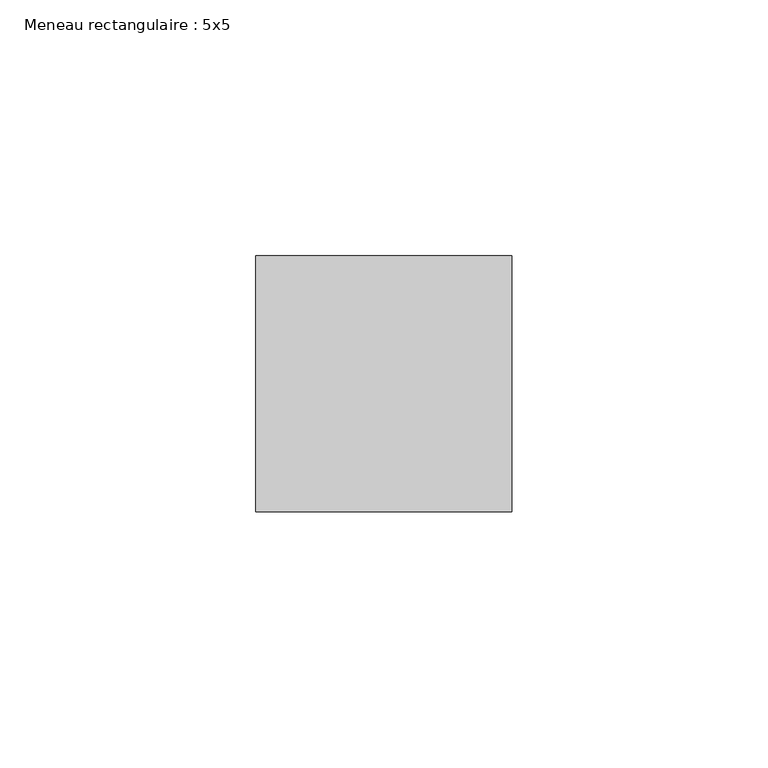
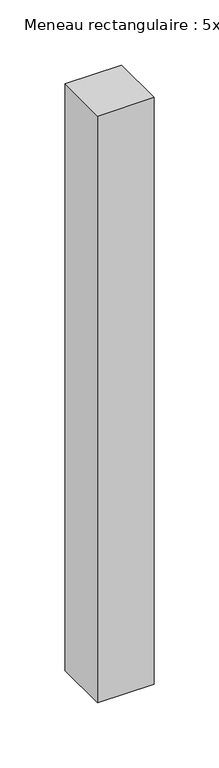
"""IFC4 building model written with IfcOpenShell, lengths in millimetres: member geometry, Meneau rectangulaire : 5x5."""

from ifc_helpers import new_model, si_unit, frame, origin, place, context, project, spatial, polyline, outline, extrude, source, transform, mapped, element, save


def meneau_rectangulaire_5x5_0e7bc2e6(model_context):
    return source(origin(), model_context, "Body", "SweptSolid", [
        extrude(outline(polyline([(0.0, 25.0), (0.0, -25.0), (-50.0, -25.0), (-50.0, 25.0), (0.0, 25.0)])), frame((0.0, 0.0, -550.0), z_axis=(0.0, 0.0, 1.0), x_axis=(1.0, 0.0, 0.0)), (0.0, 0.0, 1.0), 550.0),
    ])


if __name__ == "__main__":
    model = new_model("IFC4")
    model_context = context("Model", 3, world=origin())
    ifc_project = project(units=[si_unit("LENGTHUNIT", "METRE", prefix="MILLI")], contexts=[model_context])
    site = spatial("IfcSite", under=ifc_project)
    building = spatial("IfcBuilding", under=site)
    placement = place(None, origin())
    meneau_rectangulaire_5x5_shape = meneau_rectangulaire_5x5_0e7bc2e6(model_context)
    element("IfcMember", 1, ObjectType="Meneau rectangulaire : 5x5", at=placement, inside=building, context=model_context, shape_type="MappedRepresentation", body=[
        mapped(meneau_rectangulaire_5x5_shape, transform((0.0, 0.0, 0.0), x_axis=(1.0, 0.0, 0.0), y_axis=(0.0, 1.0, 0.0), z_axis=(0.0, 0.0, 1.0))),
    ])
    save(model, "model.ifc")
